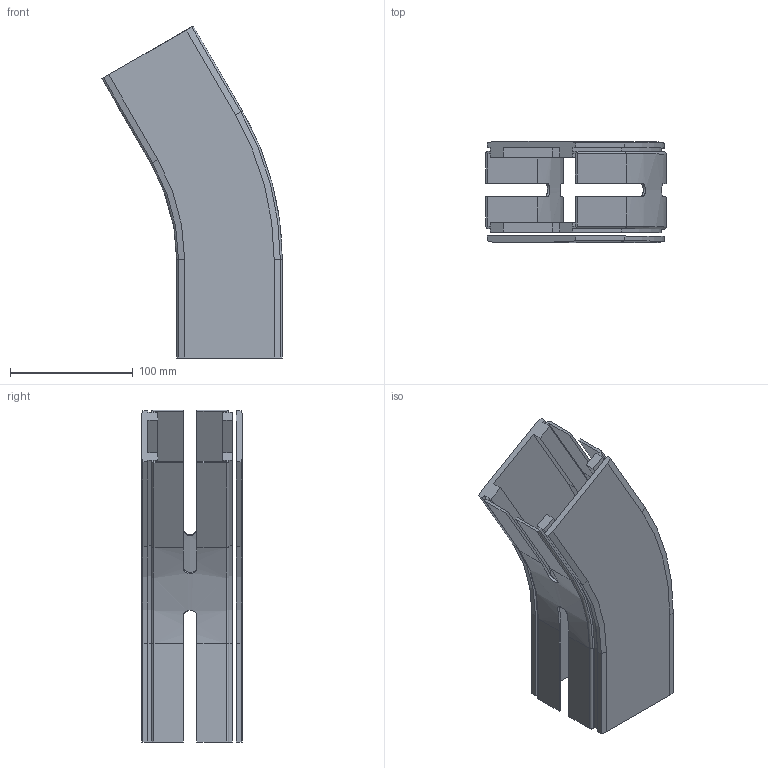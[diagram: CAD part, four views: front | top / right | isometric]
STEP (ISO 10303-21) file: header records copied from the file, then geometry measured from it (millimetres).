
FILE_DESCRIPTION(/* description */ ('GLIDKURVA SERIE 530'),/* implementation_level */ '2;1');
FILE_NAME(/* name */ '530-5375+830-2000-01.stp',/* time_stamp */ '2022-09-20T14:40:01+02:00',/* author */ ('Mathias.Dore'),/* organization */ ('CARRYLINE'),/* preprocessor_version */ 'ST-DEVELOPER v19.2',/* originating_system */ 'Autodesk Inventor 2023',/* authorisation */ '');
FILE_SCHEMA (('AUTOMOTIVE_DESIGN { 1 0 10303 214 3 1 1 }'));
Length unit declared in the file: millimetre
Products named in the file (1): 530-5375+830-2000-01
Bounding box: 147.03 x 82 x 270.78 mm (x, y, z)
Volume: 383207.1 mm3; surface area: 185277.8 mm2
Topology: 2 solids, 2 shells, 167 faces, 458 edges, 300 vertices
Faces by surface type: plane 113, cylinder 28, bspline 18, torus 4, cone 4
Entity records: 5641 total; most frequent: CARTESIAN_POINT 1348, ORIENTED_EDGE 916, DIRECTION 802, EDGE_CURVE 458, LINE 342, VECTOR 342, VERTEX_POINT 300, AXIS2_PLACEMENT_3D 230
